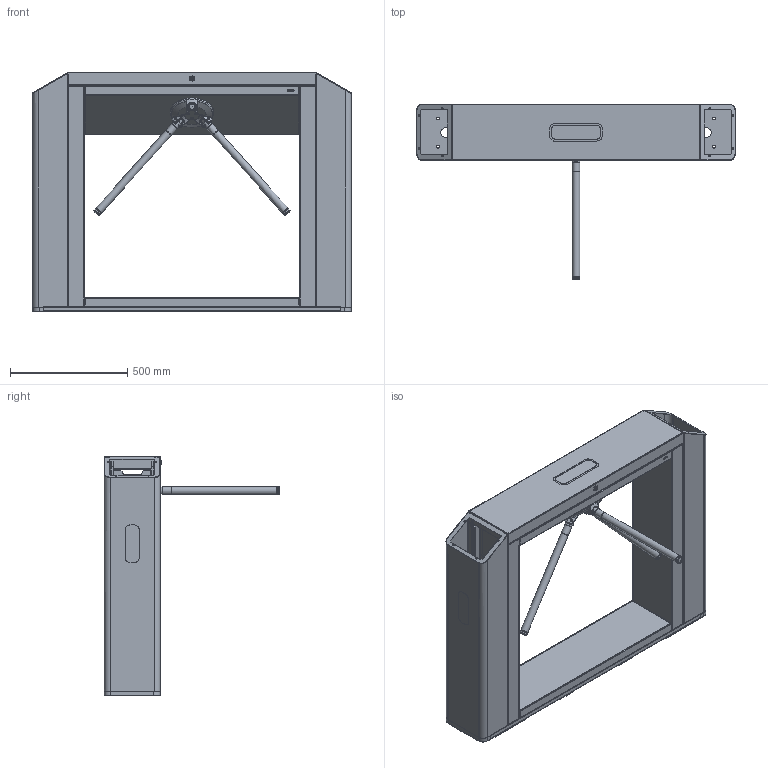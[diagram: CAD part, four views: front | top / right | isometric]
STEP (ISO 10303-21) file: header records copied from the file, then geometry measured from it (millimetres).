
FILE_DESCRIPTION(/* description */ ('Unknown'),/* implementation_level */ '2;1');
FILE_NAME(/* name */ 'TTD-10AB',/* time_stamp */ '2021-11-25T14:35:43+03:00',/* author */ ('Unknown'),/* organization */ ('Unknown'),/* preprocessor_version */ 'ST-DEVELOPER v18.1',/* originating_system */ 'Solid Edge',/* authorisation */ 'Unknown');
FILE_SCHEMA (('CONFIG_CONTROL_DESIGN'));
Products named in the file (1): TTD-10AB
Bounding box: 1363.36 x 751.05 x 1024.5 mm (x, y, z)
Volume: 6813778.4 mm3; surface area: 8067939 mm2
Topology: 47 solids, 47 shells, 2704 faces, 6998 edges, 4327 vertices
Faces by surface type: plane 1130, cylinder 903, bspline 258, torus 194, cone 145, sphere 74
Full cylindrical faces by diameter (mm): 2.5 x12, 3.2 x52, 3.242 x15, 3.3 x32, 4 x8, 4.5 x4, 5 x17, 5.7 x1, 6 x16, 6.466 x3, 7 x18, 7.4 x1, 8 x17, 9 x3, 10 x17, 12 x4, 13 x5, 14.5 x3, 15.294 x1, 20 x1, 21.2 x1, 23.4 x3, 27 x6, 28 x3, 28.5 x6, 32 x9, 40 x2, 185 x1, 188 x1
Entity records: 102840 total; most frequent: CARTESIAN_POINT 33936, ORIENTED_EDGE 12706, DIRECTION 11625, EDGE_CURVE 6353, AXIS2_PLACEMENT_3D 4234, VERTEX_POINT 4140, FACE_BOUND 3541, EDGE_LOOP 3523
